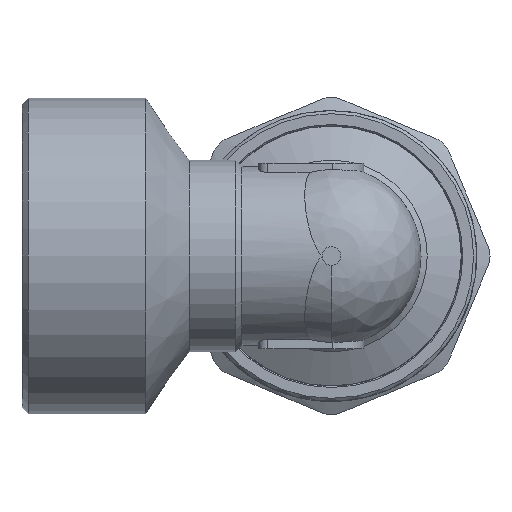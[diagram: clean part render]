
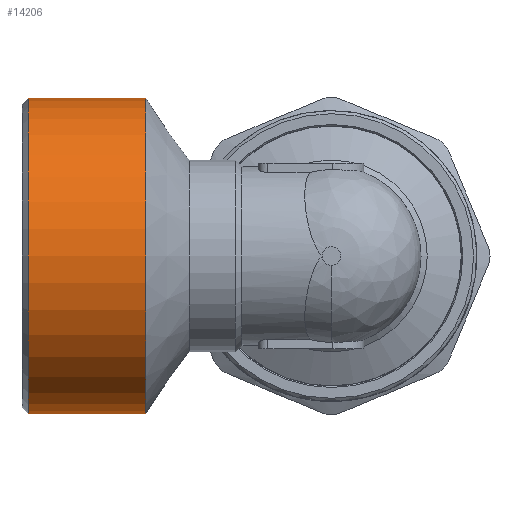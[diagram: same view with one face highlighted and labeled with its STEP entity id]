
A CAD part, left-side view. The second image highlights one B-rep face of the part: STEP entity #14206.
In plain terms, the highlighted cylindrical face has radius 25.5 mm (diameter 51 mm), a full revolution.
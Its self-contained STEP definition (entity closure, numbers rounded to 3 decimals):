
#870=FACE_OUTER_BOUND('',#2063,.T.);
#1568=CIRCLE('',#15050,25.5);
#1569=CIRCLE('',#15051,25.5);
#1570=CIRCLE('',#15053,25.5);
#1571=CIRCLE('',#15054,25.5);
#2063=EDGE_LOOP('',(#10326,#10327,#10328,#10329,#10330,#10331));
#3918=LINE('',#21961,#4930);
#4930=VECTOR('',#16228,25.5);
#6019=VERTEX_POINT('',#21951);
#6020=VERTEX_POINT('',#21952);
#6021=VERTEX_POINT('',#21957);
#6022=VERTEX_POINT('',#21958);
#7672=EDGE_CURVE('',#6019,#6020,#1568,.T.);
#7673=EDGE_CURVE('',#6020,#6019,#1569,.T.);
#7675=EDGE_CURVE('',#6021,#6022,#1570,.T.);
#7676=EDGE_CURVE('',#6022,#6021,#1571,.T.);
#7677=EDGE_CURVE('',#6022,#6020,#3918,.T.);
#10326=ORIENTED_EDGE('',*,*,#7675,.F.);
#10327=ORIENTED_EDGE('',*,*,#7676,.F.);
#10328=ORIENTED_EDGE('',*,*,#7677,.T.);
#10329=ORIENTED_EDGE('',*,*,#7673,.T.);
#10330=ORIENTED_EDGE('',*,*,#7672,.T.);
#10331=ORIENTED_EDGE('',*,*,#7677,.F.);
#13985=CYLINDRICAL_SURFACE('',#15052,25.5);
#14206=ADVANCED_FACE('',(#870),#13985,.T.);
#15050=AXIS2_PLACEMENT_3D('',#21953,#16217,#16218);
#15051=AXIS2_PLACEMENT_3D('',#21954,#16219,#16220);
#15052=AXIS2_PLACEMENT_3D('',#21956,#16222,#16223);
#15053=AXIS2_PLACEMENT_3D('',#21959,#16224,#16225);
#15054=AXIS2_PLACEMENT_3D('',#21960,#16226,#16227);
#16217=DIRECTION('center_axis',(0.,1.,0.));
#16218=DIRECTION('ref_axis',(1.,0.,0.));
#16219=DIRECTION('center_axis',(0.,1.,0.));
#16220=DIRECTION('ref_axis',(1.,0.,0.));
#16222=DIRECTION('center_axis',(0.,1.,0.));
#16223=DIRECTION('ref_axis',(-1.,0.,0.));
#16224=DIRECTION('center_axis',(0.,1.,0.));
#16225=DIRECTION('ref_axis',(1.,0.,0.));
#16226=DIRECTION('center_axis',(0.,1.,0.));
#16227=DIRECTION('ref_axis',(1.,0.,0.));
#16228=DIRECTION('',(0.,-1.,0.));
#21951=CARTESIAN_POINT('',(-25.5,30.,0.));
#21952=CARTESIAN_POINT('',(25.5,30.,0.));
#21953=CARTESIAN_POINT('Origin',(0.,30.,0.));
#21954=CARTESIAN_POINT('Origin',(0.,30.,0.));
#21956=CARTESIAN_POINT('Origin',(0.,39.5,
0.));
#21957=CARTESIAN_POINT('',(-25.5,49.,0.));
#21958=CARTESIAN_POINT('',(25.5,49.,0.));
#21959=CARTESIAN_POINT('Origin',(0.,49.,
0.));
#21960=CARTESIAN_POINT('Origin',(0.,49.,
0.));
#21961=CARTESIAN_POINT('',(25.5,39.5,0.));
